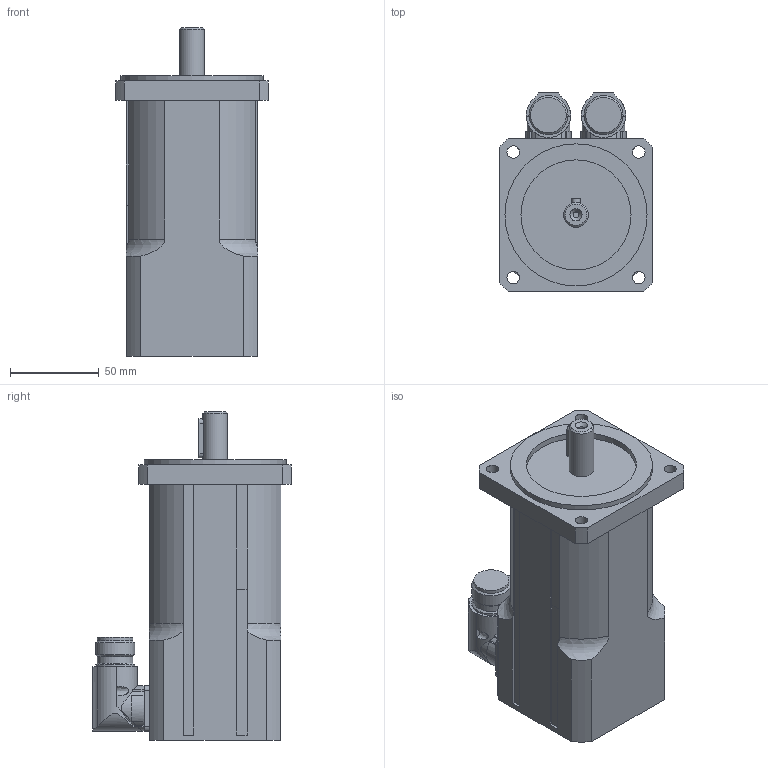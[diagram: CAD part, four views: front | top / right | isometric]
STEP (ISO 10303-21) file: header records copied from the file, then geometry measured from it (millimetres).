
FILE_DESCRIPTION(/* description */ ('Alibre Inc.'),/* implementation_level */ '2;1');
FILE_NAME(/* name */ 'export0',/* time_stamp */ '2011-07-29T10:41:06+02:00',/* author */ (''),/* organization */ (''),/* preprocessor_version */ 'ST-DEVELOPER v12',/* originating_system */ 'Alibre',/* authorisation */ '');
FILE_SCHEMA (('CONFIG_CONTROL_DESIGN'));
Length unit declared in the file: millimetre
Products named in the file (5): ID_1; ID_2
Bounding box: 86 x 112 x 185 mm (x, y, z)
Volume: 853756.6 mm3; surface area: 89201.7 mm2
Topology: 5 solids, 5 shells, 215 faces, 574 edges, 380 vertices
Faces by surface type: cylinder 105, plane 78, bspline 21, cone 7, torus 4
Full cylindrical faces by diameter (mm): 2.7 x8, 14 x1, 20 x6, 22 x4, 62 x1, 80 x1
Entity records: 5839 total; most frequent: CARTESIAN_POINT 1810, ORIENTED_EDGE 716, DIRECTION 682, EDGE_CURVE 358, AXIS2_PLACEMENT_3D 283, VERTEX_POINT 252, EDGE_LOOP 196, FACE_BOUND 196
